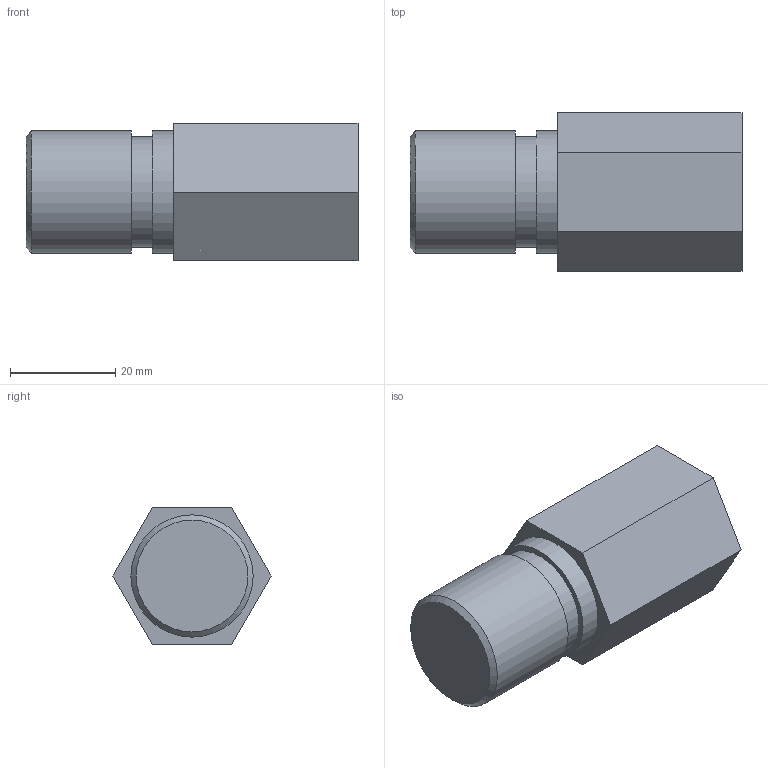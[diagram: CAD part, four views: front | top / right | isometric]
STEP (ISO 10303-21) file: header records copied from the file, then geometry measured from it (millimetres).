
FILE_DESCRIPTION((''),'2;1');
FILE_NAME('Z:\客先\あ行\アオイ\99_その他\3D_DATA\CPR_Series\6CPR-SPV-RC\STEP\203\CPR-SPV-RC1-2.ipt.stp','2008-07-02T09:53:42',(''),(''),'Autodesk Inventor 2009','Autodesk Inventor 2009','');
FILE_SCHEMA(('CONFIG_CONTROL_DESIGN'));
Length unit declared in the file: millimetre
Products named in the file (1): CPR-SPV-RC1-2
Bounding box: 63 x 30.02 x 26 mm (x, y, z)
Volume: 26169.8 mm3; surface area: 7525.3 mm2
Topology: 1 solids, 1 shells, 17 faces, 32 edges, 21 vertices
Faces by surface type: plane 12, cylinder 3, cone 2
Full cylindrical faces by diameter (mm): 21 x1, 23.2 x2
Entity records: 419 total; most frequent: DIRECTION 72, CARTESIAN_POINT 66, ORIENTED_EDGE 54, AXIS2_PLACEMENT_3D 27, EDGE_CURVE 27, EDGE_LOOP 26, VERTEX_POINT 21, VECTOR 18
